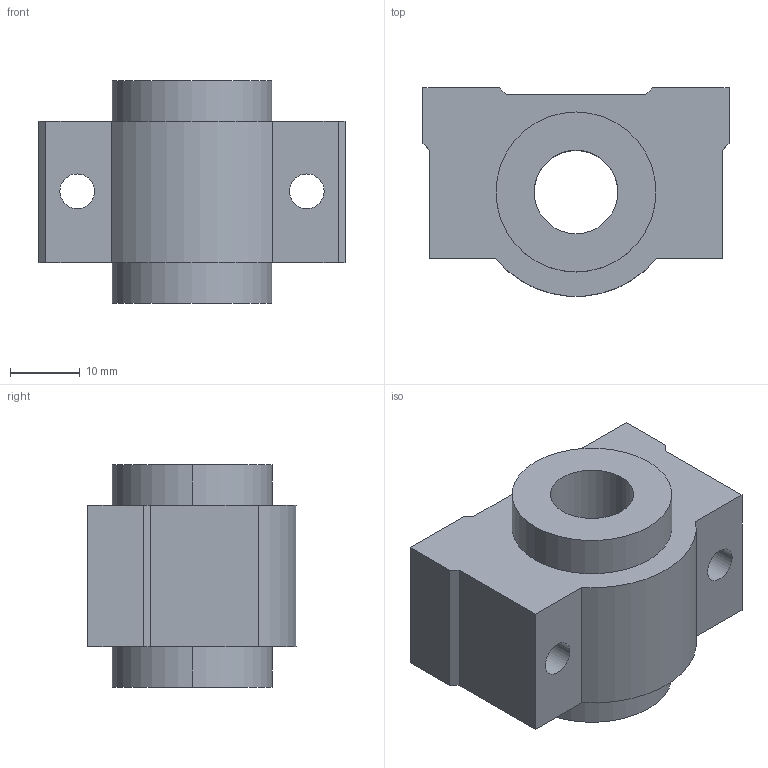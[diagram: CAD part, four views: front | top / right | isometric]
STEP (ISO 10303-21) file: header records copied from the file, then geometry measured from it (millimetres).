
FILE_DESCRIPTION((''),'2;1');
FILE_NAME('C:\Documents and Settings\ｿﾀﾀ蠑ｷ1\ｹﾙﾅﾁ ﾈｭｸ饅\ｺﾎﾇｰﾆﾄﾀﾏ\ﾁｦﾇｰ\SCE__VUU\SCE12VUU.stp','2005-06-22T15:12:13',('ｿﾀﾀ蠑ｷ1'),(''),'Autodesk Inventor 9','Autodesk Inventor 9','');
FILE_SCHEMA(('AUTOMOTIVE_DESIGN { 1 0 10303 214 1 1 1 1 }'));
Length unit declared in the file: millimetre
Products named in the file (1): SCE__VUU
Bounding box: 44 x 29.95 x 32 mm (x, y, z)
Volume: 22890.8 mm3; surface area: 7586.1 mm2
Topology: 1 solids, 1 shells, 28 faces, 72 edges, 48 vertices
Faces by surface type: plane 17, cylinder 7, bspline 4
Entity records: 945 total; most frequent: CARTESIAN_POINT 217, DIRECTION 144, ORIENTED_EDGE 144, EDGE_CURVE 72, VECTOR 50, LINE 50, VERTEX_POINT 48, AXIS2_PLACEMENT_3D 47
